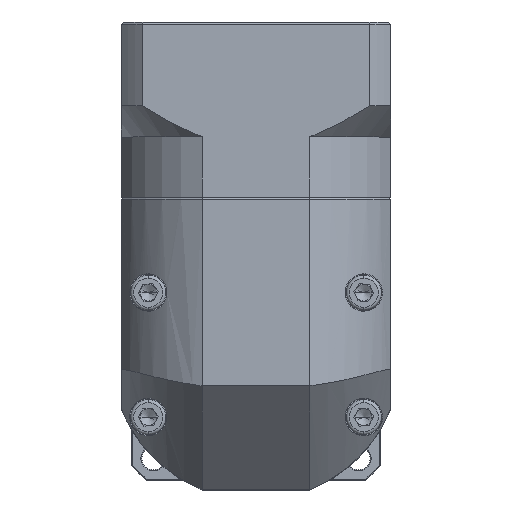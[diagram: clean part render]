
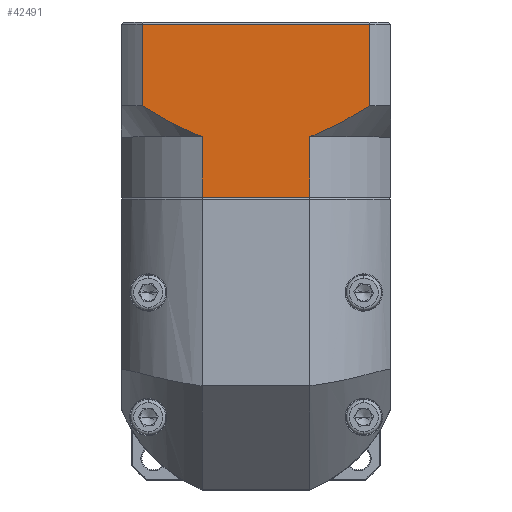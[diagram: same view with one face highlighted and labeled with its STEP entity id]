
A CAD part, top view. The second image highlights one B-rep face of the part: STEP entity #42491.
In plain terms, the highlighted planar face has unit normal (0, 0, 1).
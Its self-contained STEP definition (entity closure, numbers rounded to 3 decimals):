
#2010 = LINE ( 'NONE', #94972, #13110 ) ;
#2666 = VERTEX_POINT ( 'NONE', #7286 ) ;
#5336 = CARTESIAN_POINT ( 'NONE',  ( 11.841, 106.066, 47.226 ) ) ;
#5946 = ORIENTED_EDGE ( 'NONE', *, *, #36659, .T. ) ;
#7286 = CARTESIAN_POINT ( 'NONE',  ( 52.217, 98.566, 47.226 ) ) ;
#7741 = CARTESIAN_POINT ( 'NONE',  ( 66.613, 125.766, 47.226 ) ) ;
#8175 = CARTESIAN_POINT ( 'NONE',  ( 57.237, 100.707, 47.226 ) ) ;
#8413 = ORIENTED_EDGE ( 'NONE', *, *, #33032, .F. ) ;
#8536 = CARTESIAN_POINT ( 'NONE',  ( 52.217, 98.566, 47.226 ) ) ;
#13110 = VECTOR ( 'NONE', #77560, 1000. ) ;
#13538 = DIRECTION ( 'NONE',  ( 0., 1., 0. ) ) ;
#14662 = CARTESIAN_POINT ( 'NONE',  ( 14.13, 104.617, 47.226 ) ) ;
#15478 = VECTOR ( 'NONE', #25416, 1000. ) ;
#16473 = CARTESIAN_POINT ( 'NONE',  ( 6.727, 125.766, 47.226 ) ) ;
#18614 = VERTEX_POINT ( 'NONE', #56532 ) ;
#19613 = AXIS2_PLACEMENT_3D ( 'NONE', #24686, #87795, #88561 ) ;
#22448 = CARTESIAN_POINT ( 'NONE',  ( 23.698, 99.508, 47.226 ) ) ;
#24686 = CARTESIAN_POINT ( 'NONE',  ( 6.727, 126.266, 47.226 ) ) ;
#25416 = DIRECTION ( 'NONE',  ( -1., 0., 0. ) ) ;
#27047 = VERTEX_POINT ( 'NONE', #32500 ) ;
#32290 = LINE ( 'NONE', #57745, #75279 ) ;
#32500 = CARTESIAN_POINT ( 'NONE',  ( 66.613, 106.066, 47.226 ) ) ;
#33032 = EDGE_CURVE ( 'NONE', #2666, #78149, #89025, .T. ) ;
#36659 = EDGE_CURVE ( 'NONE', #37593, #18614, #47374, .T. ) ;
#36968 = ORIENTED_EDGE ( 'NONE', *, *, #71562, .T. ) ;
#37322 = B_SPLINE_CURVE_WITH_KNOTS ( 'NONE', 3,
 ( #8536, #87986, #52694, #105425, #51928, #8175, #70140, #43805, #113940, #60830 ),
 .UNSPECIFIED., .F., .F.,
 ( 4, 2, 2, 2, 4 ),
 ( 0.101, 0.103, 0.105, 0.109, 0.117 ),
 .UNSPECIFIED. ) ;
#37593 = VERTEX_POINT ( 'NONE', #7741 ) ;
#37792 = DIRECTION ( 'NONE',  ( 0., -1., 0. ) ) ;
#40221 = CARTESIAN_POINT ( 'NONE',  ( 26.236, 98.566, 47.226 ) ) ;
#41764 = CARTESIAN_POINT ( 'NONE',  ( 16.465, 103.233, 47.226 ) ) ;
#42491 = ADVANCED_FACE ( 'NONE', ( #81689 ), #85884, .F. ) ;
#43131 = CARTESIAN_POINT ( 'NONE',  ( 66.613, 98.566, 47.226 ) ) ;
#43805 = CARTESIAN_POINT ( 'NONE',  ( 62.03, 103.217, 47.226 ) ) ;
#44431 = EDGE_CURVE ( 'NONE', #37593, #27047, #99819, .T. ) ;
#46599 = EDGE_CURVE ( 'NONE', #46684, #63525, #53658, .T. ) ;
#46684 = VERTEX_POINT ( 'NONE', #5336 ) ;
#47374 = LINE ( 'NONE', #16473, #15478 ) ;
#48728 = CARTESIAN_POINT ( 'NONE',  ( 17.651, 102.563, 47.226 ) ) ;
#50962 = LINE ( 'NONE', #53692, #93881 ) ;
#51928 = CARTESIAN_POINT ( 'NONE',  ( 55.383, 99.856, 47.226 ) ) ;
#52694 = CARTESIAN_POINT ( 'NONE',  ( 53.498, 99.057, 47.226 ) ) ;
#53112 = ORIENTED_EDGE ( 'NONE', *, *, #46599, .T. ) ;
#53658 = B_SPLINE_CURVE_WITH_KNOTS ( 'NONE', 3,
 ( #68098, #94851, #14662, #41764, #48728, #110758, #22448, #40221 ),
 .UNSPECIFIED., .F., .F.,
 ( 4, 2, 2, 4 ),
 ( 0.058, 0.062, 0.066, 0.074 ),
 .UNSPECIFIED. ) ;
#53692 = CARTESIAN_POINT ( 'NONE',  ( 6.727, 84.066, 47.226 ) ) ;
#54992 = EDGE_CURVE ( 'NONE', #2666, #27047, #37322, .T. ) ;
#56292 = ORIENTED_EDGE ( 'NONE', *, *, #54992, .T. ) ;
#56532 = CARTESIAN_POINT ( 'NONE',  ( 11.841, 125.766, 47.226 ) ) ;
#57745 = CARTESIAN_POINT ( 'NONE',  ( 11.841, 98.566, 47.226 ) ) ;
#58068 = CARTESIAN_POINT ( 'NONE',  ( 26.236, 98.566, 47.226 ) ) ;
#60391 = EDGE_CURVE ( 'NONE', #46684, #18614, #32290, .T. ) ;
#60732 = CARTESIAN_POINT ( 'NONE',  ( 52.217, 98.566, 47.226 ) ) ;
#60830 = CARTESIAN_POINT ( 'NONE',  ( 66.613, 106.066, 47.226 ) ) ;
#61856 = ORIENTED_EDGE ( 'NONE', *, *, #60391, .F. ) ;
#63525 = VERTEX_POINT ( 'NONE', #58068 ) ;
#65398 = VECTOR ( 'NONE', #37792, 1000. ) ;
#66546 = VECTOR ( 'NONE', #95444, 1000. ) ;
#68098 = CARTESIAN_POINT ( 'NONE',  ( 11.841, 106.066, 47.226 ) ) ;
#70140 = CARTESIAN_POINT ( 'NONE',  ( 58.449, 101.312, 47.226 ) ) ;
#71562 = EDGE_CURVE ( 'NONE', #93880, #78149, #50962, .T. ) ;
#75279 = VECTOR ( 'NONE', #13538, 1000. ) ;
#77560 = DIRECTION ( 'NONE',  ( 0., 1., 0. ) ) ;
#78149 = VERTEX_POINT ( 'NONE', #109087 ) ;
#79780 = CARTESIAN_POINT ( 'NONE',  ( 26.236, 84.066, 47.226 ) ) ;
#80919 = ORIENTED_EDGE ( 'NONE', *, *, #111298, .F. ) ;
#81689 = FACE_OUTER_BOUND ( 'NONE', #99858, .T. ) ;
#82681 = ORIENTED_EDGE ( 'NONE', *, *, #44431, .F. ) ;
#85884 = PLANE ( 'NONE',  #19613 ) ;
#87795 = DIRECTION ( 'NONE',  ( 0., 0., -1. ) ) ;
#87986 = CARTESIAN_POINT ( 'NONE',  ( 52.859, 98.804, 47.226 ) ) ;
#88561 = DIRECTION ( 'NONE',  ( 0., 1., 0. ) ) ;
#89025 = LINE ( 'NONE', #60732, #65398 ) ;
#93880 = VERTEX_POINT ( 'NONE', #79780 ) ;
#93881 = VECTOR ( 'NONE', #107548, 1000. ) ;
#94851 = CARTESIAN_POINT ( 'NONE',  ( 12.979, 105.333, 47.226 ) ) ;
#94972 = CARTESIAN_POINT ( 'NONE',  ( 26.236, 98.566, 47.226 ) ) ;
#95444 = DIRECTION ( 'NONE',  ( 0., -1., 0. ) ) ;
#99819 = LINE ( 'NONE', #43131, #66546 ) ;
#99858 = EDGE_LOOP ( 'NONE', ( #82681, #5946, #61856, #53112, #80919, #36968, #8413, #56292 ) ) ;
#105425 = CARTESIAN_POINT ( 'NONE',  ( 54.76, 99.583, 47.226 ) ) ;
#107548 = DIRECTION ( 'NONE',  ( 1., 0., 0. ) ) ;
#109087 = CARTESIAN_POINT ( 'NONE',  ( 52.217, 84.066, 47.226 ) ) ;
#110758 = CARTESIAN_POINT ( 'NONE',  ( 21.246, 100.653, 47.226 ) ) ;
#111298 = EDGE_CURVE ( 'NONE', #93880, #63525, #2010, .T. ) ;
#113940 = CARTESIAN_POINT ( 'NONE',  ( 64.345, 104.604, 47.226 ) ) ;
